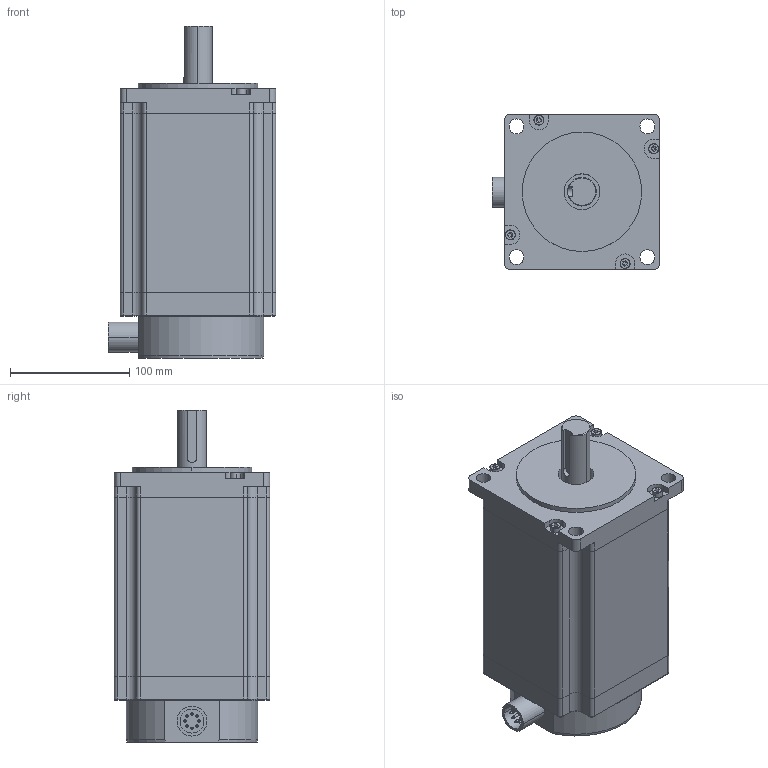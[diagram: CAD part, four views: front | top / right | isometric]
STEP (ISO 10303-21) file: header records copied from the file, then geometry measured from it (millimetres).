
FILE_DESCRIPTION (( 'STEP AP214' ), '1' );
FILE_NAME ('130BYGH3226-A-24.STEP', '2020-05-22T09:01:46', ( 'Windows' ), ( 'Microsoft' ), 'SwSTEP 2.0', 'SolidWorks 2015', '' );
FILE_SCHEMA (( 'AUTOMOTIVE_DESIGN' ));
Length unit declared in the file: millimetre
Products named in the file (7): M5X140囀鞠褒埴翐芛; 130綴傷裔; 130堤盄諳; 130ヶ傷裔湮楊擘; 130隅赽155; 130BYGH3226-A-24; 130粣粣噤24瑩羞
Assembly tree (9 placements, depth 2):
  130BYGH3226-A-24
    130隅赽155
    130ヶ傷裔湮楊擘
    130綴傷裔
    130粣粣噤24瑩羞
    130堤盄諳
    M5X140囀鞠褒埴翐芛  x4
Bounding box: 140 x 130 x 278 mm (x, y, z)
Volume: 3425848.9 mm3; surface area: 236565 mm2
Topology: 9 solids, 9 shells, 318 faces, 750 edges, 469 vertices
Faces by surface type: cylinder 142, plane 117, torus 36, cone 23
Entity records: 10065 total; most frequent: DIRECTION 1412, CARTESIAN_POINT 1324, ORIENTED_EDGE 1224, EDGE_CURVE 612, AXIS2_PLACEMENT_3D 547, VERTEX_POINT 385, LINE 318, VECTOR 318
